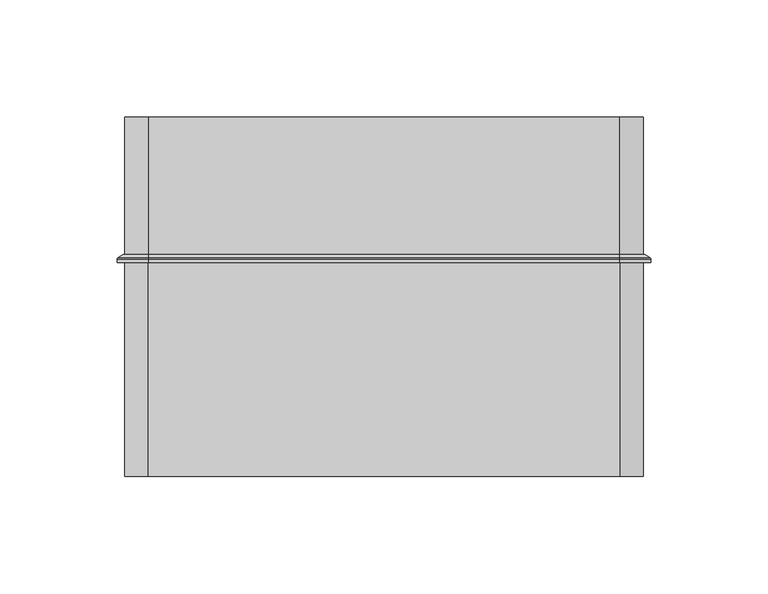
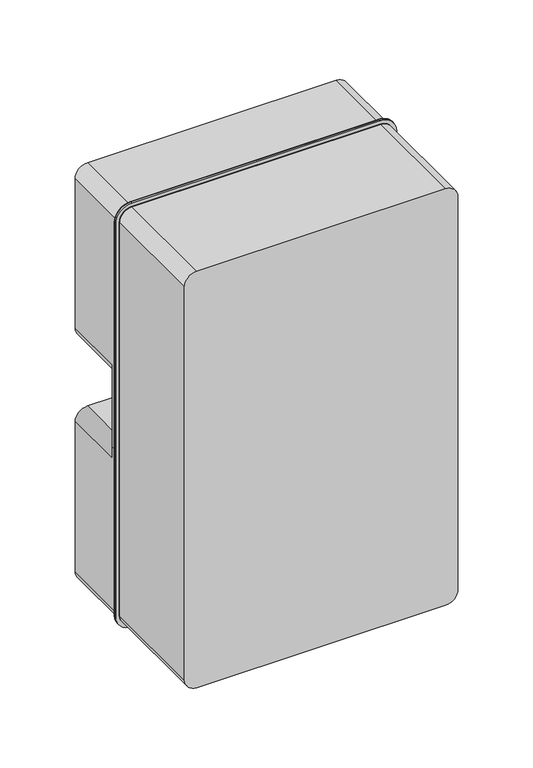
"""IFC4 building model written with IfcOpenShell, lengths in millimetres: proxy geometry, ЩУ-П-1ф_3ф : ЩУ-П-1ф/3ф."""

from ifc_helpers import new_model, si_unit, point, frame, frame_2d, origin, place, context, project, spatial, polyline, circle_curve, ellipse_curve, trimmed, segment, composite_curve, outline, extrude, source, transform, mapped, element, save
from ifc_brep_helpers import plane_surface, cylinder_surface, revolved_surface, advanced_brep


def electrical_equipment_f5411164(model_context):
    return source(origin(), model_context, "Body", "SolidModel", [
        advanced_brep(
        [(-100.5, 93.0, 179.4644661), (-110.5, 93.0, 169.4644661), (-110.5, 93.0, -28.5355339), (-110.5, 93.0, -166.5355339), (-100.5, 93.0, -176.5355339), (100.5, 93.0, -176.5355339), (110.5, 93.0, -166.5355339), (110.5, 93.0, 169.4644661), (100.5, 93.0, 179.4644661), (-100.5, 93.0, 177.4644661), (100.5, 93.0, 177.4644661), (108.5, 93.0, 169.4644661), (108.5, 93.0, -166.5355339), (100.5, 93.0, -174.5355339), (-100.5, 93.0, -174.5355339), (-108.5, 93.0, -166.5355339), (-108.5, 93.0, -43.3355339), (-48.3, 93.0, -43.3355339), (-48.3, 93.0, 46.2644661), (-108.5, 93.0, 46.2644661), (-108.5, 93.0, 169.4644661), (-100.5, 155.0, 179.4644661), (100.5, 155.0, 179.4644661), (110.5, 155.0, 169.4644661), (110.5, 155.0, -166.5355339), (100.5, 155.0, -176.5355339), (-100.5, 155.0, -176.5355339), (-110.5, 155.0, -166.5355339), (-110.5, 155.0, -53.5355339), (-110.5, 155.0, -38.5355339), (-100.5, 155.0, -28.5355339), (-80.5, 155.0, -28.5355339), (-80.5, 155.0, 31.4644661), (-100.5, 155.0, 31.4644661), (-110.5, 155.0, 41.4644661), (-110.5, 155.0, 61.4644661), (-110.5, 155.0, 169.4644661), (-45.8293594, 155.0, 49.6644661), (45.8293594, 155.0, 49.6644661), (68.2719309, 155.0, 63.6494316), (68.2719309, 155.0, 155.6795006), (45.8293594, 155.0, 169.6644661), (-45.8293594, 155.0, 169.6644661), (-68.2719309, 155.0, 155.6795006), (-68.2719309, 155.0, 63.6494316), (-110.5, 103.3543808, 41.4644661), (-110.5, 103.3543808, -28.5355339), (-110.5, 103.3543808, -38.5355339), (-80.5, 103.3543808, 31.4644661), (-80.5, 103.3543808, -28.5355339), (-100.5, 103.3543808, -28.5355339), (-100.5, 103.3543808, 31.4644661), (-45.8293594, 151.0357156, 49.6644661), (45.8293594, 151.0357156, 49.6644661), (45.8293594, 151.0357156, 169.6644661), (-45.8293594, 151.0357156, 169.6644661), (-68.2719309, 151.0357156, 155.6795006), (-68.2719309, 151.0357156, 63.6494316), (68.2719309, 151.0357156, 63.6494316), (68.2719309, 151.0357156, 155.6795006), (100.5, 151.0357156, 177.4644661), (-100.5, 151.0357156, 177.4644661), (-108.5, 151.0357156, 169.4644661), (-108.5, 151.0357156, 46.2644661), (-48.3, 151.0357156, 46.2644661), (-48.3, 151.0357156, -43.3355339), (-108.5, 151.0357156, -43.3355339), (-108.5, 151.0357156, -166.5355339), (-100.5, 151.0357156, -174.5355339), (100.5, 151.0357156, -174.5355339), (108.5, 151.0357156, -166.5355339), (108.5, 151.0357156, 169.4644661)],
        [
            (0, 1, circle_curve(frame((-100.5, 93.0, 169.4644661), z_axis=(0.0, -1.0, 0.0), x_axis=(1.0, 0.0, 0.0)), 10.0)),
            (1, 2),
            (2, 3),
            (3, 4, circle_curve(frame((-100.5, 93.0, -166.5355339), z_axis=(0.0, -1.0, 0.0), x_axis=(1.0, 0.0, 0.0)), 10.0)),
            (4, 5),
            (5, 6, circle_curve(frame((100.5, 93.0, -166.5355339), z_axis=(0.0, -1.0, 0.0), x_axis=(1.0, 0.0, 0.0)), 10.0)),
            (6, 7),
            (7, 8, circle_curve(frame((100.5, 93.0, 169.4644661), z_axis=(0.0, -1.0, 0.0), x_axis=(1.0, 0.0, 0.0)), 10.0)),
            (8, 0),
            (9, 10),
            (10, 11, circle_curve(frame((100.5, 93.0, 169.4644661), z_axis=(0.0, 1.0, 0.0), x_axis=(1.0, 0.0, 0.0)), 8.0)),
            (11, 12),
            (12, 13, circle_curve(frame((100.5, 93.0, -166.5355339), z_axis=(0.0, 1.0, 0.0), x_axis=(1.0, 0.0, 0.0)), 8.0)),
            (13, 14),
            (14, 15, circle_curve(frame((-100.5, 93.0, -166.5355339), z_axis=(0.0, 1.0, 0.0), x_axis=(1.0, 0.0, 0.0)), 8.0)),
            (15, 16),
            (16, 17),
            (17, 18),
            (18, 19),
            (19, 20),
            (20, 9, circle_curve(frame((-100.5, 93.0, 169.4644661), z_axis=(0.0, 1.0, 0.0), x_axis=(1.0, 0.0, 0.0)), 8.0)),
            (21, 22),
            (22, 23, circle_curve(frame((100.5, 155.0, 169.4644661), z_axis=(0.0, 1.0, 0.0), x_axis=(1.0, 0.0, 0.0)), 10.0)),
            (23, 24),
            (24, 25, circle_curve(frame((100.5, 155.0, -166.5355339), z_axis=(0.0, 1.0, 0.0), x_axis=(1.0, 0.0, 0.0)), 10.0)),
            (25, 26),
            (26, 27, circle_curve(frame((-100.5, 155.0, -166.5355339), z_axis=(0.0, 1.0, 0.0), x_axis=(1.0, 0.0, 0.0)), 10.0)),
            (27, 28),
            (28, 29),
            (29, 30, circle_curve(frame((-100.5, 155.0, -38.5355339), z_axis=(0.0, 1.0, 0.0), x_axis=(1.0, 0.0, 0.0)), 10.0)),
            (30, 31),
            (31, 32, circle_curve(frame((-80.5, 155.0, 1.4644661), z_axis=(0.0, -1.0, 0.0), x_axis=(1.0, 0.0, 0.0)), 30.0)),
            (32, 33),
            (33, 34, circle_curve(frame((-100.5, 155.0, 41.4644661), z_axis=(0.0, 1.0, 0.0), x_axis=(1.0, 0.0, 0.0)), 10.0)),
            (34, 35),
            (35, 36),
            (36, 21, circle_curve(frame((-100.5, 155.0, 169.4644661), z_axis=(0.0, 1.0, 0.0), x_axis=(1.0, 0.0, 0.0)), 10.0)),
            (37, 38),
            (38, 39, circle_curve(frame((45.8293594, 155.0, 74.6644661), z_axis=(0.0, -1.0, 0.0), x_axis=(1.0, 0.0, 0.0)), 25.0)),
            (39, 40, circle_curve(frame((-25.4813571, 155.0, 109.6644661), z_axis=(0.0, -1.0, 0.0), x_axis=(1.0, 0.0, 0.0)), 104.4368824)),
            (40, 41, circle_curve(frame((45.8293594, 155.0, 144.6644661), z_axis=(0.0, -1.0, 0.0), x_axis=(1.0, 0.0, 0.0)), 25.0)),
            (41, 42),
            (42, 43, circle_curve(frame((-45.8293594, 155.0, 144.6644661), z_axis=(0.0, -1.0, 0.0), x_axis=(1.0, 0.0, 0.0)), 25.0)),
            (43, 44, circle_curve(frame((25.4813571, 155.0, 109.6644661), z_axis=(0.0, -1.0, 0.0), x_axis=(1.0, 0.0, 0.0)), 104.4368824)),
            (44, 37, circle_curve(frame((-45.8293594, 155.0, 74.6644661), z_axis=(0.0, -1.0, 0.0), x_axis=(1.0, 0.0, 0.0)), 25.0)),
            (0, 21),
            (36, 1),
            (34, 45),
            (45, 46),
            (46, 2),
            (46, 47),
            (47, 29),
            (27, 3),
            (26, 4),
            (25, 5),
            (24, 6),
            (23, 7),
            (22, 8),
            (48, 49, circle_curve(frame((-80.5, 103.3543808, 1.4644661), z_axis=(0.0, 1.0, 0.0), x_axis=(1.0, 0.0, 0.0)), 30.0)),
            (49, 50),
            (50, 47, circle_curve(frame((-100.5, 103.3543808, -38.5355339), z_axis=(0.0, -1.0, 0.0), x_axis=(1.0, 0.0, 0.0)), 10.0)),
            (45, 51, circle_curve(frame((-100.5, 103.3543808, 41.4644661), z_axis=(0.0, -1.0, 0.0), x_axis=(1.0, 0.0, 0.0)), 10.0)),
            (51, 48),
            (51, 33),
            (32, 48),
            (50, 30),
            (49, 31),
            (37, 52),
            (52, 53),
            (53, 38),
            (41, 54),
            (54, 55),
            (55, 42),
            (55, 56, circle_curve(frame((-45.8293594, 151.0357156, 144.6644661), z_axis=(0.0, -1.0, 0.0), x_axis=(1.0, 0.0, 0.0)), 25.0)),
            (56, 43),
            (56, 57, circle_curve(frame((25.4813571, 151.0357156, 109.6644661), z_axis=(0.0, -1.0, 0.0), x_axis=(1.0, 0.0, 0.0)), 104.4368824)),
            (57, 44),
            (57, 52, circle_curve(frame((-45.8293594, 151.0357156, 74.6644661), z_axis=(0.0, -1.0, 0.0), x_axis=(1.0, 0.0, 0.0)), 25.0)),
            (53, 58, circle_curve(frame((45.8293594, 151.0357156, 74.6644661), z_axis=(0.0, -1.0, 0.0), x_axis=(1.0, 0.0, 0.0)), 25.0)),
            (58, 39),
            (58, 59, circle_curve(frame((-25.4813571, 151.0357156, 109.6644661), z_axis=(0.0, -1.0, 0.0), x_axis=(1.0, 0.0, 0.0)), 104.4368824)),
            (59, 40),
            (59, 54, circle_curve(frame((45.8293594, 151.0357156, 144.6644661), z_axis=(0.0, -1.0, 0.0), x_axis=(1.0, 0.0, 0.0)), 25.0)),
            (60, 61),
            (61, 62, circle_curve(frame((-100.5, 151.0357156, 169.4644661), z_axis=(0.0, -1.0, 0.0), x_axis=(1.0, 0.0, 0.0)), 8.0)),
            (62, 63),
            (63, 64),
            (64, 65),
            (65, 66),
            (66, 67),
            (67, 68, circle_curve(frame((-100.5, 151.0357156, -166.5355339), z_axis=(0.0, -1.0, 0.0), x_axis=(1.0, 0.0, 0.0)), 8.0)),
            (68, 69),
            (69, 70, circle_curve(frame((100.5, 151.0357156, -166.5355339), z_axis=(0.0, -1.0, 0.0), x_axis=(1.0, 0.0, 0.0)), 8.0)),
            (70, 71),
            (71, 60, circle_curve(frame((100.5, 151.0357156, 169.4644661), z_axis=(0.0, -1.0, 0.0), x_axis=(1.0, 0.0, 0.0)), 8.0)),
            (60, 10),
            (9, 61),
            (20, 62),
            (66, 16),
            (15, 67),
            (14, 68),
            (13, 69),
            (12, 70),
            (11, 71),
            (19, 63),
            (18, 64),
            (17, 65),
        ],
        [
            plane_surface(frame((-90.5, 93.0, 169.4644661), z_axis=(0.0, -1.0, 0.0), x_axis=(0.0, 0.0, 1.0))),
            plane_surface(frame((-90.5, 155.0, 169.4644661), z_axis=(0.0, 1.0, 0.0), x_axis=(0.0, 0.0, -1.0))),
            cylinder_surface(frame((-100.5, 155.0, 169.4644661), z_axis=(0.0, -1.0, 0.0), x_axis=(1.0, 0.0, 0.0)), 10.0),
            plane_surface(frame((-110.5, 93.0, 169.4644661), z_axis=(-1.0, 0.0, 0.0), x_axis=(0.0, 1.0, 0.0))),
            plane_surface(frame((-110.5, 93.0, -28.5355339), z_axis=(-1.0, 0.0, 0.0), x_axis=(0.0, 1.0, 0.0))),
            cylinder_surface(frame((-100.5, 155.0, -166.5355339), z_axis=(0.0, -1.0, 0.0), x_axis=(1.0, 0.0, 0.0)), 10.0),
            plane_surface(frame((-100.5, 93.0, -176.5355339), z_axis=(0.0, 0.0, -1.0), x_axis=(0.0, 1.0, 0.0))),
            cylinder_surface(frame((100.5, 155.0, -166.5355339), z_axis=(0.0, -1.0, 0.0), x_axis=(1.0, 0.0, 0.0)), 10.0),
            plane_surface(frame((110.5, 93.0, -166.5355339), z_axis=(1.0, 0.0, 0.0), x_axis=(0.0, 1.0, 0.0))),
            cylinder_surface(frame((100.5, 155.0, 169.4644661), z_axis=(0.0, -1.0, 0.0), x_axis=(1.0, 0.0, 0.0)), 10.0),
            plane_surface(frame((100.5, 93.0, 179.4644661), z_axis=(0.0, 0.0, 1.0), x_axis=(0.0, 1.0, 0.0))),
            plane_surface(frame((-100.5, 103.3543808, 31.4644661), z_axis=(0.0, 1.0, 0.0), x_axis=(-1.0, 0.0, 0.0))),
            plane_surface(frame((-80.5, 103.3543808, 31.4644661), z_axis=(0.0, 0.0, -1.0), x_axis=(0.0, 1.0, 0.0))),
            cylinder_surface(frame((-100.5, 155.0, 41.4644661), z_axis=(0.0, 1.0, 0.0), x_axis=(1.0, 0.0, 0.0)), 10.0),
            cylinder_surface(frame((-100.5, 155.0, -38.5355339), z_axis=(0.0, 1.0, 0.0), x_axis=(1.0, 0.0, 0.0)), 10.0),
            plane_surface(frame((-100.5, 103.3543808, -28.5355339), z_axis=(0.0, 0.0, 1.0), x_axis=(0.0, 1.0, 0.0))),
            revolved_surface(polyline([(-50.5, 103.3543808, 1.4644661), (-50.5, 155.0, 1.4644661)]), (-80.5, 155.0, 1.4644661), (0.0, -1.0, 0.0)),
            plane_surface(frame((-45.8293594, 145.0, 49.6644661), z_axis=(0.0, 0.0, 1.0), x_axis=(0.0, 1.0, 0.0))),
            plane_surface(frame((45.8293594, 145.0, 169.6644661), z_axis=(0.0, 0.0, -1.0), x_axis=(0.0, 1.0, 0.0))),
            revolved_surface(polyline([(-20.8293594, 151.0357156, 144.6644661), (-20.8293594, 155.0, 144.6644661)]), (-45.8293594, 155.0, 144.6644661), (0.0, -1.0, 0.0)),
            revolved_surface(polyline([(129.9182395, 151.0357156, 109.6644661), (129.9182395, 155.0, 109.6644661)]), (25.4813571, 155.0, 109.6644661), (0.0, -1.0, 0.0)),
            revolved_surface(polyline([(-20.8293594, 151.0357156, 74.6644661), (-20.8293594, 155.0, 74.6644661)]), (-45.8293594, 155.0, 74.6644661), (0.0, -1.0, 0.0)),
            revolved_surface(polyline([(70.8293594, 151.0357156, 74.6644661), (70.8293594, 155.0, 74.6644661)]), (45.8293594, 155.0, 74.6644661), (0.0, -1.0, 0.0)),
            revolved_surface(polyline([(78.9555253, 151.0357156, 109.6644661), (78.9555253, 155.0, 109.6644661)]), (-25.4813571, 155.0, 109.6644661), (0.0, -1.0, 0.0)),
            revolved_surface(polyline([(70.8293594, 151.0357156, 144.6644661), (70.8293594, 155.0, 144.6644661)]), (45.8293594, 155.0, 144.6644661), (0.0, -1.0, 0.0)),
            plane_surface(frame((-100.5, 151.0357156, 177.4644661), z_axis=(0.0, -1.0, 0.0), x_axis=(1.0, 0.0, 0.0))),
            plane_surface(frame((100.5, 93.0, 177.4644661), z_axis=(0.0, 0.0, -1.0), x_axis=(0.0, 1.0, 0.0))),
            revolved_surface(polyline([(-92.5, 93.0, 169.4644661), (-92.5, 151.0357156, 169.4644661)]), (-100.5, 151.0357156, 169.4644661), (0.0, -1.0, 0.0)),
            plane_surface(frame((-108.5, 93.0, -43.3355339), z_axis=(1.0, 0.0, 0.0), x_axis=(0.0, 1.0, 0.0))),
            revolved_surface(polyline([(-92.5, 93.0, -166.5355339), (-92.5, 151.0357156, -166.5355339)]), (-100.5, 151.0357156, -166.5355339), (0.0, -1.0, 0.0)),
            plane_surface(frame((-100.5, 93.0, -174.5355339), z_axis=(0.0, 0.0, 1.0), x_axis=(0.0, 1.0, 0.0))),
            revolved_surface(polyline([(108.5, 93.0, -166.5355339), (108.5, 151.0357156, -166.5355339)]), (100.5, 151.0357156, -166.5355339), (0.0, -1.0, 0.0)),
            plane_surface(frame((108.5, 93.0, -166.5355339), z_axis=(-1.0, 0.0, 0.0), x_axis=(0.0, 1.0, 0.0))),
            revolved_surface(polyline([(108.5, 93.0, 169.4644661), (108.5, 151.0357156, 169.4644661)]), (100.5, 151.0357156, 169.4644661), (0.0, -1.0, 0.0)),
            plane_surface(frame((-108.5, 93.0, 169.4644661), z_axis=(1.0, 0.0, 0.0), x_axis=(0.0, 1.0, 0.0))),
            plane_surface(frame((-108.5, 93.0, 46.2644661), z_axis=(0.0, 0.0, 1.0), x_axis=(0.0, 1.0, 0.0))),
            plane_surface(frame((-48.3, 93.0, 46.2644661), z_axis=(1.0, 0.0, 0.0), x_axis=(0.0, 1.0, 0.0))),
            plane_surface(frame((-48.3, 93.0, -43.3355339), z_axis=(0.0, 0.0, -1.0), x_axis=(0.0, 1.0, 0.0))),
        ],
        [
            (0, [[1, 2, 3, 4, 5, 6, 7, 8, 9], [10, 11, 12, 13, 14, 15, 16, 17, 18, 19, 20, 21]]),
            (1, [[22, 23, 24, 25, 26, 27, 28, 29, 30, 31, 32, 33, 34, 35, 36, 37], [38, 39, 40, 41, 42, 43, 44, 45]]),
            (2, [[-1, 46, -37, 47]]),
            (3, [[-2, -47, -36, -35, 48, 49, 50]]),
            (4, [[-3, -50, 51, 52, -29, -28, 53]]),
            (5, [[-4, -53, -27, 54]]),
            (6, [[-5, -54, -26, 55]]),
            (7, [[-6, -55, -25, 56]]),
            (8, [[-7, -56, -24, 57]]),
            (9, [[-8, -57, -23, 58]]),
            (10, [[-9, -58, -22, -46]]),
            (11, [[59, 60, 61, -51, -49, 62, 63]]),
            (12, [[-63, 64, -33, 65]]),
            (13, [[-62, -48, -34, -64]]),
            (14, [[-61, 66, -30, -52]]),
            (15, [[-60, 67, -31, -66]]),
            (16, [[-59, -65, -32, -67]]),
            (17, [[-38, 68, 69, 70]]),
            (18, [[-42, 71, 72, 73]]),
            (19, [[-43, -73, 74, 75]]),
            (20, [[-44, -75, 76, 77]]),
            (21, [[-45, -77, 78, -68]]),
            (22, [[-39, -70, 79, 80]]),
            (23, [[-40, -80, 81, 82]]),
            (24, [[-41, -82, 83, -71]]),
            (25, [[84, 85, 86, 87, 88, 89, 90, 91, 92, 93, 94, 95], [-69, -78, -76, -74, -72, -83, -81, -79]]),
            (26, [[-84, 96, -10, 97]]),
            (27, [[-85, -97, -21, 98]]),
            (28, [[-90, 99, -16, 100]]),
            (29, [[-91, -100, -15, 101]]),
            (30, [[-92, -101, -14, 102]]),
            (31, [[-93, -102, -13, 103]]),
            (32, [[-94, -103, -12, 104]]),
            (33, [[-95, -104, -11, -96]]),
            (34, [[-86, -98, -20, 105]]),
            (35, [[-87, -105, -19, 106]]),
            (36, [[-88, -106, -18, 107]]),
            (37, [[-89, -107, -17, -99]]),
        ],
    ),
        advanced_brep(
        [(-108.5, 96.5193543, 169.4644661), (-108.5, 93.0, 169.4644661), (-108.5, 93.0, -166.5355339), (-108.5, 96.5193543, -166.5355339), (-100.5, 96.5193543, -174.5355339), (-100.5, 93.0, -174.5355339), (100.5, 93.0, -174.5355339), (100.5, 96.5193543, -174.5355339), (108.5, 96.5193543, -166.5355339), (108.5, 93.0, -166.5355339), (108.5, 93.0, 169.4644661), (108.5, 96.5193543, 169.4644661), (100.5, 96.5193543, 177.4644661), (100.5, 93.0, 177.4644661), (-100.5, 93.0, 177.4644661), (-100.5, 96.5193543, 177.4644661), (-113.1471305, 95.2523963, 169.4644661), (-100.5, 95.2523963, 182.1115966), (-100.5, 96.5193543, 180.0), (-111.0355339, 96.5193543, 169.4644661), (-113.5355339, 94.566402, 169.4644661), (-100.5, 94.566402, 182.5), (-113.5355339, 93.0, 169.4644661), (-100.5, 93.0, 182.5), (-111.0355339, 96.5193543, -166.5355339), (-113.1471305, 95.2523963, -166.5355339), (-113.5355339, 94.566402, -166.5355339), (-113.5355339, 93.0, -166.5355339), (-100.5, 95.2523963, -179.1826644), (-100.5, 96.5193543, -177.0710678), (-100.5, 94.566402, -179.5710678), (-100.5, 93.0, -179.5710678), (100.5, 96.5193543, -177.0710678), (100.5, 95.2523963, -179.1826644), (100.5, 94.566402, -179.5710678), (100.5, 93.0, -179.5710678), (113.1471305, 95.2523963, -166.5355339), (111.0355339, 96.5193543, -166.5355339), (113.5355339, 94.566402, -166.5355339), (113.5355339, 93.0, -166.5355339), (111.0355339, 96.5193543, 169.4644661), (113.1471305, 95.2523963, 169.4644661), (113.5355339, 94.566402, 169.4644661), (113.5355339, 93.0, 169.4644661), (100.5, 96.5193543, 180.0), (100.5, 95.2523963, 182.1115966), (100.5, 94.566402, 182.5), (100.5, 93.0, 182.5)],
        [
            (0, 1),
            (1, 2),
            (2, 3),
            (3, 0),
            (4, 5),
            (5, 6),
            (6, 7),
            (7, 4),
            (8, 9),
            (9, 10),
            (10, 11),
            (11, 8),
            (12, 13),
            (13, 14),
            (14, 15),
            (15, 12),
            (16, 17, circle_curve(frame((-100.5, 95.2523963, 169.4644661), z_axis=(0.0, 1.0, 0.0), x_axis=(0.0, 0.0, 1.0)), 12.6471305)),
            (17, 18),
            (18, 19, circle_curve(frame((-100.5, 96.5193543, 169.4644661), z_axis=(0.0, -1.0, 0.0), x_axis=(0.0, 0.0, 1.0)), 10.5355339)),
            (19, 16),
            (20, 21, circle_curve(frame((-100.5, 94.566402, 169.4644661), z_axis=(0.0, 1.0, 0.0), x_axis=(0.0, 0.0, 1.0)), 13.0355339)),
            (21, 17, circle_curve(frame((-100.5, 94.566402, 181.7), z_axis=(-1.0, 0.0, 0.0), x_axis=(0.0, 0.0, -1.0)), 0.8)),
            (16, 20, circle_curve(frame((-112.7355339, 94.566402, 169.4644661), z_axis=(0.0, 0.0, 1.0), x_axis=(1.0, 0.0, 0.0)), 0.8)),
            (22, 23, circle_curve(frame((-100.5, 93.0, 169.4644661), z_axis=(0.0, 1.0, 0.0), x_axis=(0.0, 0.0, 1.0)), 13.0355339)),
            (23, 21),
            (20, 22),
            (0, 15, circle_curve(frame((-100.5, 96.5193543, 169.4644661), z_axis=(0.0, 1.0, 0.0), x_axis=(0.0, 0.0, 1.0)), 8.0)),
            (14, 1, circle_curve(frame((-100.5, 93.0, 169.4644661), z_axis=(0.0, -1.0, 0.0), x_axis=(0.0, 0.0, 1.0)), 8.0)),
            (19, 24),
            (24, 25),
            (25, 16),
            (25, 26, circle_curve(frame((-112.7355339, 94.566402, -166.5355339), z_axis=(0.0, 0.0, 1.0), x_axis=(1.0, 0.0, 0.0)), 0.8)),
            (26, 20),
            (26, 27),
            (27, 22),
            (28, 25, circle_curve(frame((-100.5, 95.2523963, -166.5355339), z_axis=(0.0, 1.0, 0.0), x_axis=(-1.0, 0.0, 0.0)), 12.6471305)),
            (24, 29, circle_curve(frame((-100.5, 96.5193543, -166.5355339), z_axis=(0.0, -1.0, 0.0), x_axis=(-1.0, 0.0, 0.0)), 10.5355339)),
            (29, 28),
            (30, 26, circle_curve(frame((-100.5, 94.566402, -166.5355339), z_axis=(0.0, 1.0, 0.0), x_axis=(-1.0, 0.0, 0.0)), 13.0355339)),
            (28, 30, circle_curve(frame((-100.5, 94.566402, -178.7710678), z_axis=(-1.0, 0.0, 0.0), x_axis=(0.0, 0.0, 1.0)), 0.8)),
            (31, 27, circle_curve(frame((-100.5, 93.0, -166.5355339), z_axis=(0.0, 1.0, 0.0), x_axis=(-1.0, 0.0, 0.0)), 13.0355339)),
            (30, 31),
            (4, 3, circle_curve(frame((-100.5, 96.5193543, -166.5355339), z_axis=(0.0, 1.0, 0.0), x_axis=(-1.0, 0.0, 0.0)), 8.0)),
            (2, 5, circle_curve(frame((-100.5, 93.0, -166.5355339), z_axis=(0.0, -1.0, 0.0), x_axis=(-1.0, 0.0, 0.0)), 8.0)),
            (29, 32),
            (32, 33),
            (33, 28),
            (33, 34, circle_curve(frame((100.5, 94.566402, -178.7710678), z_axis=(-1.0, 0.0, 0.0), x_axis=(0.0, 0.0, 1.0)), 0.8)),
            (34, 30),
            (34, 35),
            (35, 31),
            (36, 33, circle_curve(frame((100.5, 95.2523963, -166.5355339), z_axis=(0.0, 1.0, 0.0), x_axis=(0.0, 0.0, -1.0)), 12.6471305)),
            (32, 37, circle_curve(frame((100.5, 96.5193543, -166.5355339), z_axis=(0.0, -1.0, 0.0), x_axis=(0.0, 0.0, -1.0)), 10.5355339)),
            (37, 36),
            (38, 34, circle_curve(frame((100.5, 94.566402, -166.5355339), z_axis=(0.0, 1.0, 0.0), x_axis=(0.0, 0.0, -1.0)), 13.0355339)),
            (36, 38, circle_curve(frame((112.7355339, 94.566402, -166.5355339), z_axis=(0.0, 0.0, -1.0), x_axis=(-1.0, 0.0, 0.0)), 0.8)),
            (39, 35, circle_curve(frame((100.5, 93.0, -166.5355339), z_axis=(0.0, 1.0, 0.0), x_axis=(0.0, 0.0, -1.0)), 13.0355339)),
            (38, 39),
            (8, 7, circle_curve(frame((100.5, 96.5193543, -166.5355339), z_axis=(0.0, 1.0, 0.0), x_axis=(0.0, 0.0, -1.0)), 8.0)),
            (6, 9, circle_curve(frame((100.5, 93.0, -166.5355339), z_axis=(0.0, -1.0, 0.0), x_axis=(0.0, 0.0, -1.0)), 8.0)),
            (37, 40),
            (40, 41),
            (41, 36),
            (41, 42, circle_curve(frame((112.7355339, 94.566402, 169.4644661), z_axis=(0.0, 0.0, -1.0), x_axis=(-1.0, 0.0, 0.0)), 0.8)),
            (42, 38),
            (42, 43),
            (43, 39),
            (44, 40, circle_curve(frame((100.5, 96.5193543, 169.4644661), z_axis=(0.0, 1.0, 0.0), x_axis=(1.0, 0.0, 0.0)), 10.5355339)),
            (18, 44),
            (11, 12, circle_curve(frame((100.5, 96.5193543, 169.4644661), z_axis=(0.0, -1.0, 0.0), x_axis=(1.0, 0.0, 0.0)), 8.0)),
            (45, 41, circle_curve(frame((100.5, 95.2523963, 169.4644661), z_axis=(0.0, 1.0, 0.0), x_axis=(1.0, 0.0, 0.0)), 12.6471305)),
            (44, 45),
            (46, 42, circle_curve(frame((100.5, 94.566402, 169.4644661), z_axis=(0.0, 1.0, 0.0), x_axis=(1.0, 0.0, 0.0)), 13.0355339)),
            (45, 46, circle_curve(frame((100.5, 94.566402, 181.7), z_axis=(1.0, 0.0, 0.0), x_axis=(0.0, 0.0, -1.0)), 0.8)),
            (47, 43, circle_curve(frame((100.5, 93.0, 169.4644661), z_axis=(0.0, 1.0, 0.0), x_axis=(1.0, 0.0, 0.0)), 13.0355339)),
            (46, 47),
            (47, 23),
            (13, 10, circle_curve(frame((100.5, 93.0, 169.4644661), z_axis=(0.0, 1.0, 0.0), x_axis=(1.0, 0.0, 0.0)), 8.0)),
            (17, 45),
            (21, 46),
        ],
        [
            plane_surface(frame((-108.5, 93.0, 169.4644661), z_axis=(1.0, 0.0, 0.0), x_axis=(0.0, 0.0, -1.0))),
            plane_surface(frame((-100.5, 93.0, -174.5355339), z_axis=(0.0, 0.0, 1.0), x_axis=(1.0, 0.0, 0.0))),
            plane_surface(frame((108.5, 93.0, -166.5355339), z_axis=(-1.0, 0.0, 0.0), x_axis=(0.0, 0.0, 1.0))),
            plane_surface(frame((100.5, 93.0, 177.4644661), z_axis=(0.0, 0.0, -1.0), x_axis=(-1.0, 0.0, 0.0))),
            revolved_surface(polyline([(-100.5, 96.5193543, 180.0), (-100.5, 95.2523963, 182.1115966)]), (-100.5, 0.0, 169.4644661), (0.0, -1.0, 0.0)),
            revolved_surface(trimmed(ellipse_curve(frame((-100.5, 94.566402, 181.7), z_axis=(1.0, 0.0, 0.0), x_axis=(0.0, 0.0, -1.0)), 0.8, 0.8), [point((-100.5, 95.2523963, 182.1115966))], [point((-100.5, 94.566402, 182.5))], True, "CARTESIAN"), (-100.5, 0.0, 169.4644661), (0.0, -1.0, 0.0)),
            cylinder_surface(frame((-100.5, 0.0, 169.4644661), z_axis=(0.0, -1.0, 0.0), x_axis=(0.0, 0.0, 1.0)), 13.0355339),
            revolved_surface(polyline([(-100.5, 93.0, 177.4644661), (-100.5, 96.5193543, 177.4644661)]), (-100.5, 0.0, 169.4644661), (0.0, -1.0, 0.0)),
            plane_surface(frame((-111.0355339, 96.5193543, 169.4644661), z_axis=(-0.5144957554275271, 0.857492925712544, 0.0), x_axis=(0.0, 0.0, -1.0))),
            cylinder_surface(frame((-112.7355339, 94.566402, 169.4644661), z_axis=(0.0, 0.0, 1.0), x_axis=(1.0, 0.0, 0.0)), 0.8),
            plane_surface(frame((-113.5355339, 94.566402, 169.4644661), z_axis=(-1.0, 0.0, 0.0), x_axis=(0.0, 0.0, -1.0))),
            revolved_surface(polyline([(-111.0355339, 96.5193543, -166.5355339), (-113.1471305, 95.2523963, -166.5355339)]), (-100.5, 0.0, -166.5355339), (0.0, -1.0, 0.0)),
            revolved_surface(trimmed(ellipse_curve(frame((-112.7355339, 94.566402, -166.5355339), z_axis=(0.0, 0.0, 1.0), x_axis=(1.0, 0.0, 0.0)), 0.8, 0.8), [point((-113.1471305, 95.2523963, -166.5355339))], [point((-113.5355339, 94.566402, -166.5355339))], True, "CARTESIAN"), (-100.5, 0.0, -166.5355339), (0.0, -1.0, 0.0)),
            cylinder_surface(frame((-100.5, 0.0, -166.5355339), z_axis=(0.0, -1.0, 0.0), x_axis=(-1.0, 0.0, 0.0)), 13.0355339),
            revolved_surface(polyline([(-108.5, 93.0, -166.5355339), (-108.5, 96.5193543, -166.5355339)]), (-100.5, 0.0, -166.5355339), (0.0, -1.0, 0.0)),
            plane_surface(frame((-100.5, 96.5193543, -177.0710678), z_axis=(0.0, 0.857492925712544, -0.5144957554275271), x_axis=(1.0, 0.0, 0.0))),
            cylinder_surface(frame((-100.5, 94.566402, -178.7710678), z_axis=(-1.0, 0.0, 0.0), x_axis=(0.0, 0.0, 1.0)), 0.8),
            plane_surface(frame((-100.5, 94.566402, -179.5710678), z_axis=(0.0, 0.0, -1.0), x_axis=(1.0, 0.0, 0.0))),
            revolved_surface(polyline([(100.5, 96.5193543, -177.0710678), (100.5, 95.2523963, -179.1826644)]), (100.5, 0.0, -166.5355339), (0.0, -1.0, 0.0)),
            revolved_surface(trimmed(ellipse_curve(frame((100.5, 94.566402, -178.7710678), z_axis=(-1.0, 0.0, 0.0), x_axis=(0.0, 0.0, 1.0)), 0.8, 0.8), [point((100.5, 95.2523963, -179.1826644))], [point((100.5, 94.566402, -179.5710678))], True, "CARTESIAN"), (100.5, 0.0, -166.5355339), (0.0, -1.0, 0.0)),
            cylinder_surface(frame((100.5, 0.0, -166.5355339), z_axis=(0.0, -1.0, 0.0), x_axis=(0.0, 0.0, -1.0)), 13.0355339),
            revolved_surface(polyline([(100.5, 93.0, -174.5355339), (100.5, 96.5193543, -174.5355339)]), (100.5, 0.0, -166.5355339), (0.0, -1.0, 0.0)),
            plane_surface(frame((111.0355339, 96.5193543, -166.5355339), z_axis=(0.5144957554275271, 0.857492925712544, 0.0), x_axis=(0.0, 0.0, 1.0))),
            cylinder_surface(frame((112.7355339, 94.566402, -166.5355339), z_axis=(0.0, 0.0, -1.0), x_axis=(-1.0, 0.0, 0.0)), 0.8),
            plane_surface(frame((113.5355339, 94.566402, -166.5355339), z_axis=(1.0, 0.0, 0.0), x_axis=(0.0, 0.0, 1.0))),
            plane_surface(frame((100.5, 96.5193543, 169.4644661), z_axis=(0.0, 1.0, 0.0), x_axis=(1.0, 0.0, 0.0))),
            revolved_surface(polyline([(111.0355339, 96.5193543, 169.4644661), (113.1471305, 95.2523963, 169.4644661)]), (100.5, 0.0, 169.4644661), (0.0, -1.0, 0.0)),
            revolved_surface(trimmed(ellipse_curve(frame((112.7355339, 94.566402, 169.4644661), z_axis=(0.0, 0.0, -1.0), x_axis=(-1.0, 0.0, 0.0)), 0.8, 0.8), [point((113.1471305, 95.2523963, 169.4644661))], [point((113.5355339, 94.566402, 169.4644661))], True, "CARTESIAN"), (100.5, 0.0, 169.4644661), (0.0, -1.0, 0.0)),
            cylinder_surface(frame((100.5, 0.0, 169.4644661), z_axis=(0.0, -1.0, 0.0), x_axis=(1.0, 0.0, 0.0)), 13.0355339),
            plane_surface(frame((100.5, 93.0, 169.4644661), z_axis=(0.0, -1.0, 0.0), x_axis=(1.0, 0.0, 0.0))),
            revolved_surface(polyline([(108.5, 93.0, 169.4644661), (108.5, 96.5193543, 169.4644661)]), (100.5, 0.0, 169.4644661), (0.0, -1.0, 0.0)),
            plane_surface(frame((100.5, 96.5193543, 180.0), z_axis=(0.0, 0.857492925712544, 0.5144957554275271), x_axis=(-1.0, 0.0, 0.0))),
            cylinder_surface(frame((100.5, 94.566402, 181.7), z_axis=(1.0, 0.0, 0.0), x_axis=(0.0, 0.0, -1.0)), 0.8),
            plane_surface(frame((100.5, 94.566402, 182.5), z_axis=(0.0, 0.0, 1.0), x_axis=(-1.0, 0.0, 0.0))),
        ],
        [
            (0, [[1, 2, 3, 4]]),
            (1, [[5, 6, 7, 8]]),
            (2, [[9, 10, 11, 12]]),
            (3, [[13, 14, 15, 16]]),
            (4, [[17, 18, 19, 20]]),
            (5, [[21, 22, -17, 23]]),
            (6, [[24, 25, -21, 26]]),
            (7, [[27, -15, 28, -1]]),
            (8, [[-20, 29, 30, 31]]),
            (9, [[-23, -31, 32, 33]]),
            (10, [[-26, -33, 34, 35]]),
            (11, [[36, -30, 37, 38]]),
            (12, [[39, -32, -36, 40]]),
            (13, [[41, -34, -39, 42]]),
            (14, [[43, -3, 44, -5]]),
            (15, [[-38, 45, 46, 47]]),
            (16, [[-40, -47, 48, 49]]),
            (17, [[-42, -49, 50, 51]]),
            (18, [[52, -46, 53, 54]]),
            (19, [[55, -48, -52, 56]]),
            (20, [[57, -50, -55, 58]]),
            (21, [[59, -7, 60, -9]]),
            (22, [[-54, 61, 62, 63]]),
            (23, [[-56, -63, 64, 65]]),
            (24, [[-58, -65, 66, 67]]),
            (25, [[68, -61, -53, -45, -37, -29, -19, 69], [-8, -59, -12, 70, -16, -27, -4, -43]]),
            (26, [[71, -62, -68, 72]]),
            (27, [[73, -64, -71, 74]]),
            (28, [[75, -66, -73, 76]]),
            (29, [[-51, -57, -67, -75, 77, -24, -35, -41], [78, -10, -60, -6, -44, -2, -28, -14]]),
            (30, [[-70, -11, -78, -13]]),
            (31, [[-72, -69, -18, 79]]),
            (32, [[-74, -79, -22, 80]]),
            (33, [[-76, -80, -25, -77]]),
        ],
    ),
        extrude(outline(composite_curve([segment(polyline([(179.4644661, 100.5), (179.4644661, -100.5)]), True, "CONTINUOUS"), segment(trimmed(circle_curve(frame_2d((169.4644661, -100.5)), 10.0), [point((179.4644661, -100.5))], [point((169.4644661, -110.5))], False, "CARTESIAN"), True, "CONTINUOUS"), segment(polyline([(169.4644661, -110.5), (-166.5355339, -110.5)]), True, "CONTINUOUS"), segment(trimmed(circle_curve(frame_2d((-166.5355339, -100.5)), 10.0), [point((-166.5355339, -110.5))], [point((-176.5355339, -100.5))], False, "CARTESIAN"), True, "CONTINUOUS"), segment(polyline([(-176.5355339, -100.5), (-176.5355339, 100.5)]), True, "CONTINUOUS"), segment(trimmed(circle_curve(frame_2d((-166.5355339, 100.5)), 10.0), [point((-176.5355339, 100.5))], [point((-166.5355339, 110.5))], False, "CARTESIAN"), True, "CONTINUOUS"), segment(polyline([(-166.5355339, 110.5), (169.4644661, 110.5)]), True, "CONTINUOUS"), segment(trimmed(circle_curve(frame_2d((169.4644661, 100.5)), 10.0), [point((169.4644661, 110.5))], [point((179.4644661, 100.5))], False, "CARTESIAN"), True, "CONTINUOUS")], self_intersect=False)), frame((0.0, 2.0, 0.0), z_axis=(0.0, 1.0, 0.0), x_axis=(0.0, 0.0, 1.0)), (0.0, 0.0, 1.0), 91.0),
    ])


if __name__ == "__main__":
    model = new_model("IFC4")
    model_context = context("Model", 3, world=origin())
    ifc_project = project(units=[si_unit("LENGTHUNIT", "METRE", prefix="MILLI")], contexts=[model_context])
    site = spatial("IfcSite", under=ifc_project)
    building = spatial("IfcBuilding", under=site)
    placement = place(None, origin())
    electrical_equipment_shape = electrical_equipment_f5411164(model_context)
    element("IfcBuildingElementProxy", 1, Name="ЩУ-П-1ф_3ф : ЩУ-П-1ф/3ф", ObjectType="ЩУ-П-1ф_3ф : ЩУ-П-1ф/3ф", at=placement, inside=building, context=model_context, shape_type="MappedRepresentation", body=[
        mapped(electrical_equipment_shape, transform((0.0, 0.0, 0.0), x_axis=(1.0, 0.0, 0.0), y_axis=(0.0, 1.0, 0.0), z_axis=(0.0, 0.0, 1.0))),
    ])
    save(model, "model.ifc")
